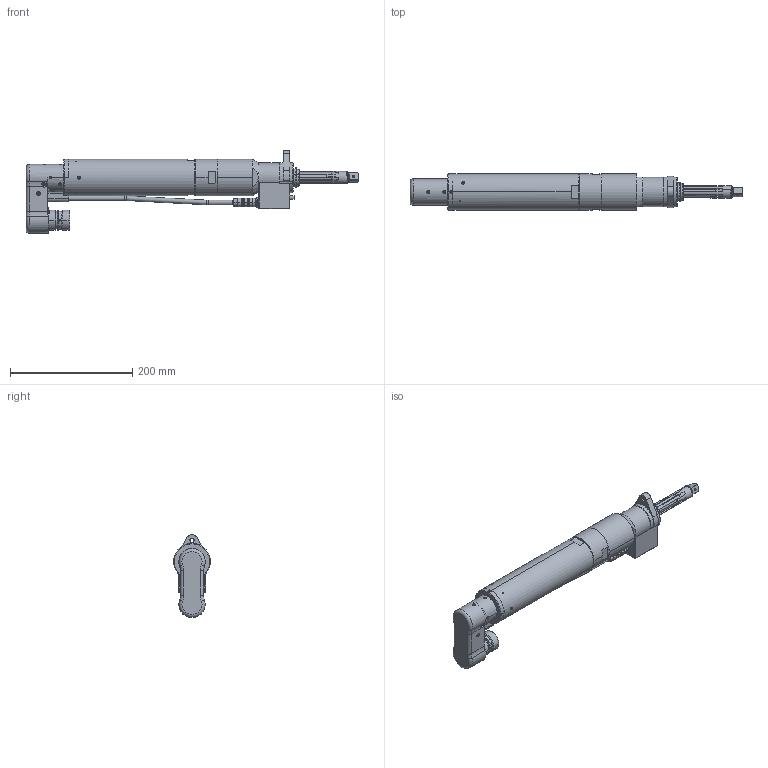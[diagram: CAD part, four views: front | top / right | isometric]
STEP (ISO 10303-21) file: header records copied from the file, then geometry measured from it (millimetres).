
FILE_DESCRIPTION((''),'2;1');
FILE_NAME('6151654290_EME60-10J_V2','2012-02-20T',('GREEXTADU'),(''),'PRO/ENGINEER BY PARAMETRIC TECHNOLOGY CORPORATION, 2010330','PRO/ENGINEER BY PARAMETRIC TECHNOLOGY CORPORATION, 2010330','');
FILE_SCHEMA(('CONFIG_CONTROL_DESIGN'));
Length unit declared in the file: millimetre
Products named in the file (1): 6151654290_EME60-10J_V2
Bounding box: 544.25 x 60 x 135.73 mm (x, y, z)
Volume: 728009.9 mm3; surface area: 199132.2 mm2
Topology: 4 solids, 6 shells, 999 faces, 2498 edges, 1546 vertices
Faces by surface type: plane 416, cylinder 326, cone 172, torus 82, sphere 2, bspline 1
Entity records: 37124 total; most frequent: CARTESIAN_POINT 12935, DIRECTION 5287, ORIENTED_EDGE 4940, EDGE_CURVE 2470, AXIS2_PLACEMENT_3D 2077, VERTEX_POINT 1546, VECTOR 1133, LINE 1133
